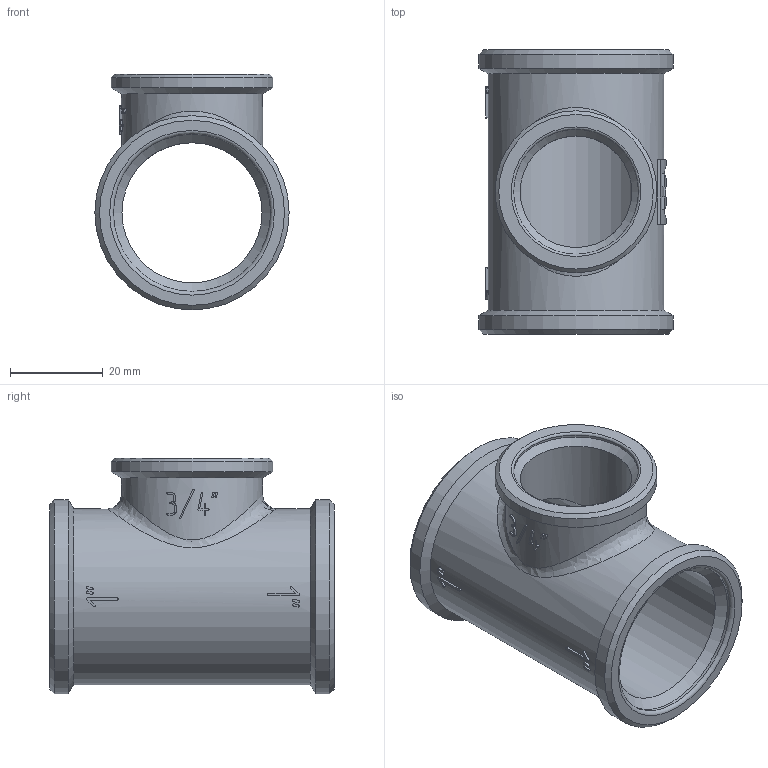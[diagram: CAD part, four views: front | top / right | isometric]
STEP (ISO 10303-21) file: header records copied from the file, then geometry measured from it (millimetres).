
FILE_DESCRIPTION(('STEP AP203'), '1');
FILE_NAME('ÂÐ.752243.009 - VTr.750.N.0605 - Ôèò. ðåçüá. òðîé', '2024-07-15T08:49:48', ('Boss'), (''), 'C3D Converter', 'C3D Toolkit', '');
FILE_SCHEMA(('CONFIG_CONTROL_DESIGN'));
Length unit declared in the file: millimetre
Products named in the file (1): ВР.752243.009
Bounding box: 42 x 61.5 x 51 mm (x, y, z)
Volume: 29305.6 mm3; surface area: 16592 mm2
Topology: 1 solids, 1 shells, 237 faces, 648 edges, 427 vertices
Faces by surface type: extrusion 123, plane 76, cylinder 25, cone 9, torus 3, bspline 1
Full cylindrical faces by diameter (mm): 24.118 x1, 27 x1, 30.292 x1, 30.5 x1, 34 x2, 35 x1, 38 x1, 42 x2
Entity records: 10750 total; most frequent: CARTESIAN_POINT 5499, ORIENTED_EDGE 1246, DIRECTION 698, EDGE_CURVE 623, VERTEX_POINT 426, B_SPLINE_CURVE_WITH_KNOTS 374, VECTOR 356, EDGE_LOOP 279
